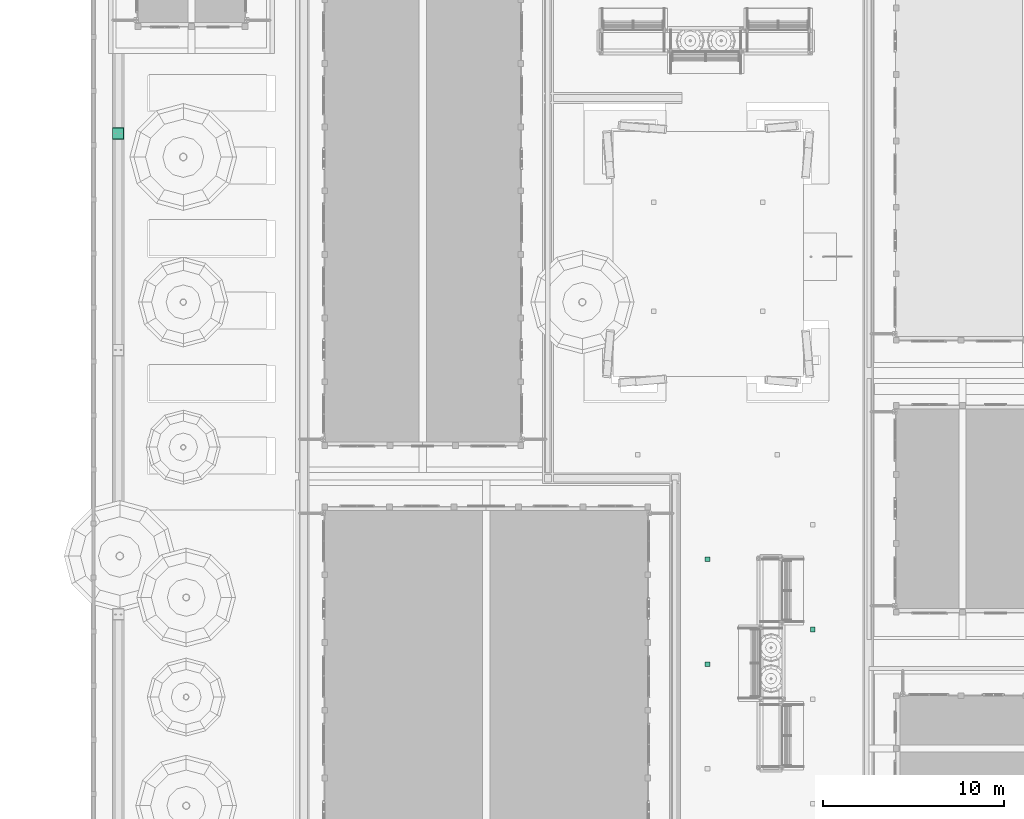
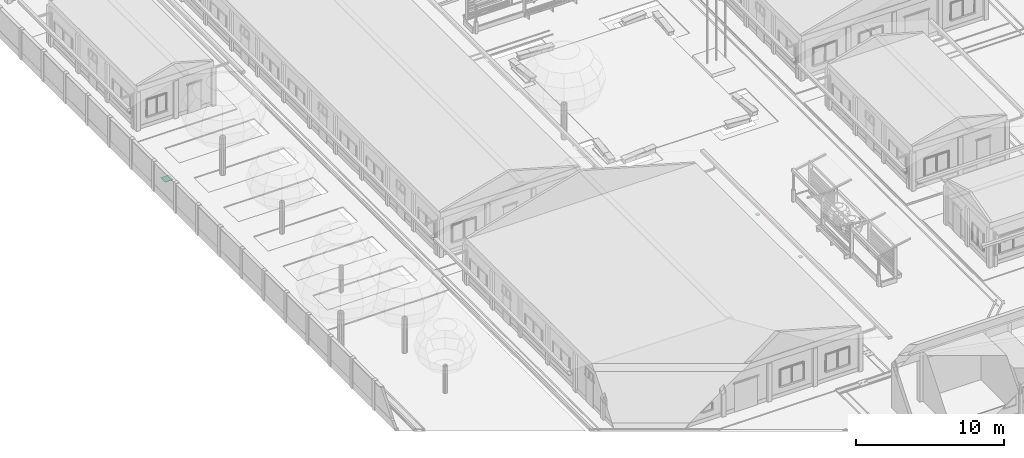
# One storey, part 121 of 177: 3 waste terminals, 2 distribution chamber elements.
"""IFC4 building model written with IfcOpenShell, lengths in metres."""

import ifcopenshell
import ifcopenshell.guid

model = None  # the IFC model being written
_history = None  # IfcOwnerHistory: only IFC2X3 demands one
_inside = {}  # id of a spatial element -> (the spatial element, [elements in it])
_under = {}  # id of a project, library or spatial element -> (it, [spatial elements below it])
_declared = {}  # id of a project -> (the project, [libraries it declares])
_typed = {}  # id of a type object -> (the type object, [elements of that type])
_made_of = {}  # id of a material, layer set ... -> (it, [elements and type objects made of it])


def new_model(schema):
    """Start an empty IFC model of exactly this schema.

    Asked for "IFC4X3", IfcOpenShell would pick the latest addendum, in which some entities
    have other attributes; the version numbers below select the first issue.
    IFC2X3 requires an IfcOwnerHistory on every rooted entity: one is made here for all.
    """
    global model, _history
    if schema == "IFC4X3":
        model = ifcopenshell.file(schema_version=(4, 3, 0, 0))
    else:
        model = ifcopenshell.file(schema=schema)
    _inside.clear()
    _under.clear()
    _declared.clear()
    _typed.clear()
    _made_of.clear()
    _history = None
    if model.schema == "IFC2X3":
        org = make("IfcOrganization", Name="unknown")
        user = make(
            "IfcPersonAndOrganization",
            ThePerson=make("IfcPerson", FamilyName="unknown"),
            TheOrganization=org,
        )
        app = make(
            "IfcApplication",
            ApplicationDeveloper=org,
            Version="unknown",
            ApplicationFullName="unknown",
            ApplicationIdentifier="unknown",
        )
        _history = make(
            "IfcOwnerHistory",
            OwningUser=user,
            OwningApplication=app,
            ChangeAction="ADDED",
            CreationDate=0,
        )
    return model


def make(cls, **values):
    """One entity of the class cls with the attributes given. An attribute that is None is left unset."""
    return model.create_entity(
        cls, **{name: value for name, value in values.items() if value is not None}
    )


def rooted(cls, **values):
    """An entity with a GlobalId (a new one), such as an element, a storey or a relation."""
    return make(cls, GlobalId=ifcopenshell.guid.new(), OwnerHistory=_history, **values)


def si_unit(unit_type, name, prefix=None):
    """IfcSIUnit, for example si_unit("LENGTHUNIT", "METRE", prefix="MILLI")."""
    return make("IfcSIUnit", UnitType=unit_type, Prefix=prefix, Name=name)


def assignment(units):
    """IfcUnitAssignment: the units of a project."""
    return None if units is None else make("IfcUnitAssignment", Units=units)


def point(xyz):
    """IfcCartesianPoint."""
    return None if xyz is None else make("IfcCartesianPoint", Coordinates=xyz)


def direction(xyz):
    """IfcDirection."""
    return None if xyz is None else make("IfcDirection", DirectionRatios=xyz)


def frame(location, z_axis=None, x_axis=None):
    """IfcAxis2Placement3D, a coordinate frame: its origin and axes. An axis left out is left unset."""
    return make(
        "IfcAxis2Placement3D",
        Location=point(location),
        Axis=direction(z_axis),
        RefDirection=direction(x_axis),
    )


def origin():
    """The frame at (0, 0, 0) with its axes left unset."""
    return frame((0.0, 0.0, 0.0))


def origin_with_axes():
    """The frame at (0, 0, 0) with the z axis (0, 0, 1) and the x axis (1, 0, 0) written out."""
    return frame((0.0, 0.0, 0.0), z_axis=(0.0, 0.0, 1.0), x_axis=(1.0, 0.0, 0.0))


def place(relative_to, where):
    """IfcLocalPlacement: puts the frame where relative to a parent placement (None: the world)."""
    return make(
        "IfcLocalPlacement", PlacementRelTo=relative_to, RelativePlacement=where
    )


def context(
    kind, dimensions, precision=None, world=None, true_north=None, identifier=None
):
    """IfcGeometricRepresentationContext, for example the 3D "Model" context."""
    return make(
        "IfcGeometricRepresentationContext",
        ContextIdentifier=identifier,
        ContextType=kind,
        CoordinateSpaceDimension=dimensions,
        Precision=precision,
        WorldCoordinateSystem=world,
        TrueNorth=true_north,
    )


def subcontext(parent, identifier, kind, view, scale=None):
    """IfcGeometricRepresentationSubContext, for example "Body" below "Model"."""
    return make(
        "IfcGeometricRepresentationSubContext",
        ContextIdentifier=identifier,
        ContextType=kind,
        ParentContext=parent,
        TargetScale=scale,
        TargetView=view,
    )


def project(units=None, contexts=None):
    """IfcProject with its units and contexts."""
    return rooted(
        "IfcProject",
        Name="project",
        RepresentationContexts=contexts,
        UnitsInContext=assignment(units),
    )


def spatial(cls, under=None, at=None, **own):
    """A site, building, storey or space (cls), placed at a placement, below another one or the project."""
    s = rooted(cls, ObjectPlacement=at, **own)
    if under is not None:
        _under.setdefault(under.id(), (under, []))[1].append(s)
    return s


def point_list(points):
    """IfcCartesianPointList2D or 3D."""
    cls = (
        "IfcCartesianPointList2D" if len(points[0]) == 2 else "IfcCartesianPointList3D"
    )
    return make(cls, CoordList=points)


def triangles(points, corners, closed=None, point_numbers=None):
    """IfcTriangulatedFaceSet: each triangle names its three corners, points numbered from 1."""
    return make(
        "IfcTriangulatedFaceSet",
        Coordinates=point_list(points),
        Closed=closed,
        CoordIndex=corners,
        PnIndex=point_numbers,
    )


def shape(context_of_items, identifier, shape_type, items):
    """IfcShapeRepresentation: the items that make up one representation, for example the "Body"."""
    return make(
        "IfcShapeRepresentation",
        ContextOfItems=context_of_items,
        RepresentationIdentifier=identifier,
        RepresentationType=shape_type,
        Items=items,
    )


def made_of(thing, what):
    """Note that an element or type object is made of a material, layer set ...; save() writes the relation."""
    if what is not None:
        _made_of.setdefault(what.id(), (what, []))[1].append(thing)
    return thing


def element(
    cls,
    number,
    at=None,
    inside=None,
    cuts=None,
    type_object=None,
    material=None,
    context=None,
    identifier="Body",
    shape_type=None,
    held_by="IfcProductDefinitionShape",
    body=None,
    shapes=None,
    **own,
):
    """One element of the class cls, such as IfcWall. Its Tag is "e" and its number.

    at: its placement. inside: the storey or other place that contains it. cuts: it is an
    opening in that element (IfcRelVoidsElement). A single representation is given by context,
    identifier, shape_type and body (its items); several are given by shapes. held_by: the class
    of the entity that holds the representations. save() writes the other relations.
    """
    e = rooted(cls, Tag="e%d" % number, ObjectPlacement=at, **own)
    if body is not None:
        shapes = [shape(context, identifier, shape_type, body)]
    if shapes is not None:
        e.Representation = make(held_by, Representations=shapes)
    if inside is not None:
        _inside.setdefault(inside.id(), (inside, []))[1].append(e)
    if cuts is not None:
        rooted(
            "IfcRelVoidsElement", RelatingBuildingElement=cuts, RelatedOpeningElement=e
        )
    if type_object is not None:
        _typed.setdefault(type_object.id(), (type_object, []))[1].append(e)
    return made_of(e, material)


def aggregate(whole, parts):
    """IfcRelAggregates: a whole, such as a stair, and the parts it consists of."""
    return rooted("IfcRelAggregates", RelatingObject=whole, RelatedObjects=parts)


def save(model, path):
    """Write the relations noted so far, then the file.

    IfcRelAggregates (storeys below a building ...), IfcRelContainedInSpatialStructure (elements
    in a storey), IfcRelDefinesByType, IfcRelAssociatesMaterial and IfcRelDeclares: one each for
    every whole, place, type object, material and project.
    """
    for whole, parts in _under.values():
        aggregate(whole, parts)
    for where, things in _inside.values():
        rooted(
            "IfcRelContainedInSpatialStructure",
            RelatedElements=things,
            RelatingStructure=where,
        )
    for kind, things in _typed.values():
        rooted("IfcRelDefinesByType", RelatedObjects=things, RelatingType=kind)
    for what, things in _made_of.values():
        rooted("IfcRelAssociatesMaterial", RelatedObjects=things, RelatingMaterial=what)
    for by, libraries in _declared.values():
        rooted("IfcRelDeclares", RelatingContext=by, RelatedDefinitions=libraries)
    model.write(path)


model = new_model("IFC4")

# Units and contexts
model_context = context("Model", 3, precision=1e-05, world=origin_with_axes())
body_context = subcontext(model_context, "Body", "Model", "MODEL_VIEW")
ifc_project = project(units=[si_unit("LENGTHUNIT", "METRE"), si_unit("AREAUNIT", "SQUARE_METRE"), si_unit("VOLUMEUNIT", "CUBIC_METRE"), si_unit("PLANEANGLEUNIT", "RADIAN")], contexts=[model_context])

# Site, building, storey
site_placement = place(None, origin_with_axes())
site = spatial("IfcSite", under=ifc_project, at=site_placement, Name="Predio Los Mangos - Morales, San Martín", CompositionType="ELEMENT")
building_placement = place(site_placement, origin())
building = spatial("IfcBuilding", under=site, at=building_placement, Name="Hogar de Refugio Temporal", CompositionType="ELEMENT")
storey_placement = place(building_placement, origin())
storey = spatial("IfcBuildingStorey", under=building, at=storey_placement, Name="NIVEL 1 (NPT +0.00)", CompositionType="ELEMENT", Elevation=0.0)

# Waste terminals
waste_terminal_1_placement = place(storey_placement, origin())
element("IfcWasteTerminal", 1, at=waste_terminal_1_placement, inside=storey, Name="sumidero_fondo", ObjectType="Sumidero con rejilla", PredefinedType="GULLYTRAP", context=body_context, shape_type="Tessellation", body=[
    triangles([(40.585, 41.829, -0.02), (40.835, 41.829, -0.02), (40.835, 42.079, -0.02), (40.585, 42.079, -0.02), (40.585, 41.829, 0.064), (40.835, 41.829, 0.064), (40.835, 42.079, 0.064), (40.585, 42.079, 0.064)], [[1, 4, 3], [1, 3, 2], [5, 6, 7], [5, 7, 8], [1, 2, 6], [1, 6, 5], [2, 3, 7], [2, 7, 6], [3, 4, 8], [3, 8, 7], [4, 1, 5], [4, 5, 8]]),
])
waste_terminal_2_placement = place(storey_placement, origin())
element("IfcWasteTerminal", 2, at=waste_terminal_2_placement, inside=storey, Name="sumidero_fondo", ObjectType="Sumidero con rejilla", PredefinedType="GULLYTRAP", context=body_context, shape_type="Tessellation", body=[
    triangles([(34.772, 45.694, -0.02), (35.022, 45.694, -0.02), (35.022, 45.944, -0.02), (34.772, 45.944, -0.02), (34.772, 45.694, 0.064), (35.022, 45.694, 0.064), (35.022, 45.944, 0.064), (34.772, 45.944, 0.064)], [[1, 4, 3], [1, 3, 2], [5, 6, 7], [5, 7, 8], [1, 2, 6], [1, 6, 5], [2, 3, 7], [2, 7, 6], [3, 4, 8], [3, 8, 7], [4, 1, 5], [4, 5, 8]]),
])
waste_terminal_3_placement = place(storey_placement, origin())
element("IfcWasteTerminal", 3, at=waste_terminal_3_placement, inside=storey, Name="sumidero_fondo", ObjectType="Sumidero con rejilla", PredefinedType="GULLYTRAP", context=body_context, shape_type="Tessellation", body=[
    triangles([(34.772, 39.919, -0.02), (35.022, 39.919, -0.02), (35.022, 40.169, -0.02), (34.772, 40.169, -0.02), (34.772, 39.919, 0.064), (35.022, 39.919, 0.064), (35.022, 40.169, 0.064), (34.772, 40.169, 0.064)], [[1, 4, 3], [1, 3, 2], [5, 6, 7], [5, 7, 8], [1, 2, 6], [1, 6, 5], [2, 3, 7], [2, 7, 6], [3, 4, 8], [3, 8, 7], [4, 1, 5], [4, 5, 8]]),
])

# Distribution chamber elements
distribution_chamber_element_1_placement = place(storey_placement, origin())
element("IfcDistributionChamberElement", 4, at=distribution_chamber_element_1_placement, inside=storey, Name="tapa_insp_junta", ObjectType="Tapa de inspección", PredefinedType="INSPECTIONCHAMBER", context=body_context, shape_type="Tessellation", body=[
    triangles([(2.092, 68.972, 0.082), (2.732, 68.972, 0.082), (2.732, 69.612, 0.082), (2.092, 69.612, 0.082), (2.092, 68.972, 0.096), (2.732, 68.972, 0.096), (2.732, 69.612, 0.096), (2.092, 69.612, 0.096)], [[1, 4, 3], [1, 3, 2], [5, 6, 7], [5, 7, 8], [1, 2, 6], [1, 6, 5], [2, 3, 7], [2, 7, 6], [3, 4, 8], [3, 8, 7], [4, 1, 5], [4, 5, 8]]),
])
distribution_chamber_element_2_placement = place(storey_placement, origin())
element("IfcDistributionChamberElement", 5, at=distribution_chamber_element_2_placement, inside=storey, Name="tapa_inspeccion", ObjectType="Tapa de inspección", PredefinedType="INSPECTIONCHAMBER", context=body_context, shape_type="Tessellation", body=[
    triangles([(2.112, 68.992, 0.082), (2.712, 68.992, 0.082), (2.712, 69.592, 0.082), (2.112, 69.592, 0.082), (2.112, 68.992, 0.104), (2.712, 68.992, 0.104), (2.712, 69.592, 0.104), (2.112, 69.592, 0.104)], [[1, 4, 3], [1, 3, 2], [5, 6, 7], [5, 7, 8], [1, 2, 6], [1, 6, 5], [2, 3, 7], [2, 7, 6], [3, 4, 8], [3, 8, 7], [4, 1, 5], [4, 5, 8]]),
])

save(model, "model.ifc")
